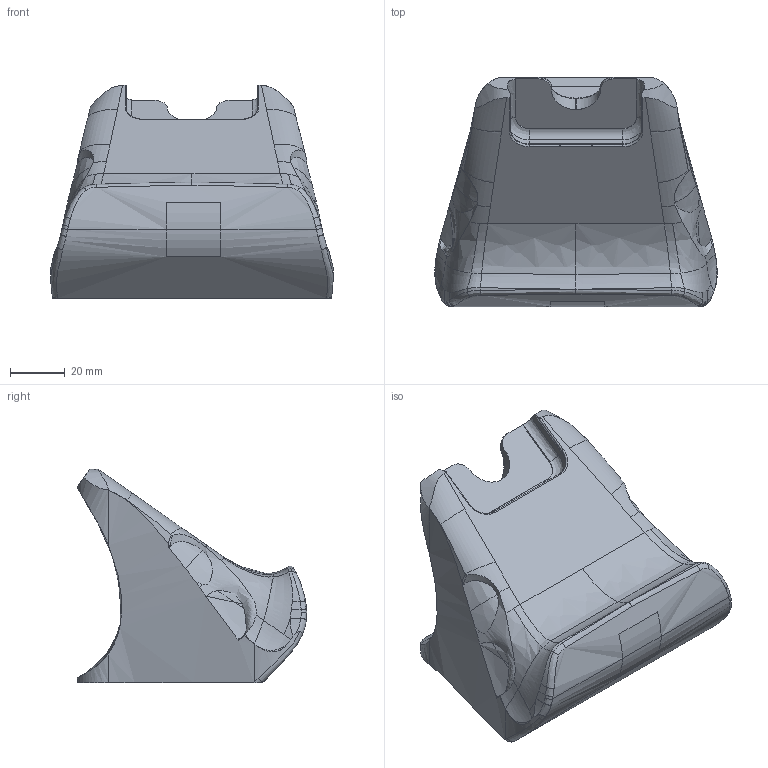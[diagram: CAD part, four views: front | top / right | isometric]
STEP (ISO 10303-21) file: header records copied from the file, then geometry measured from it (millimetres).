
FILE_DESCRIPTION(/* description */ (''),/* implementation_level */ '2;1');
FILE_NAME(/* name */ 'Steamdeck Controller Dock V1.01 - Solid - No Logo.step',/* time_stamp */ '2026-05-17T18:04:37+01:00',/* author */ (''),/* organization */ (''),/* preprocessor_version */ 'ST-DEVELOPER v20.1',/* originating_system */ 'Autodesk Translation Framework v15.8.0.0',/* authorisation */ '');
FILE_SCHEMA (('AUTOMOTIVE_DESIGN { 1 0 10303 214 3 1 1 }'));
Length unit declared in the file: millimetre
Products named in the file (1): Steamdeck controller dock
Bounding box: 103.15 x 83.81 x 77.9 mm (x, y, z)
Volume: 305009.5 mm3; surface area: 30997.1 mm2
Topology: 1 solids, 1 shells, 153 faces, 453 edges, 287 vertices
Faces by surface type: bspline 120, plane 23, cylinder 10
Entity records: 26429 total; most frequent: CARTESIAN_POINT 23352, ORIENTED_EDGE 876, EDGE_CURVE 438, B_SPLINE_CURVE_WITH_KNOTS 303, VERTEX_POINT 287, DIRECTION 246, FACE_OUTER_BOUND 153, EDGE_LOOP 153
